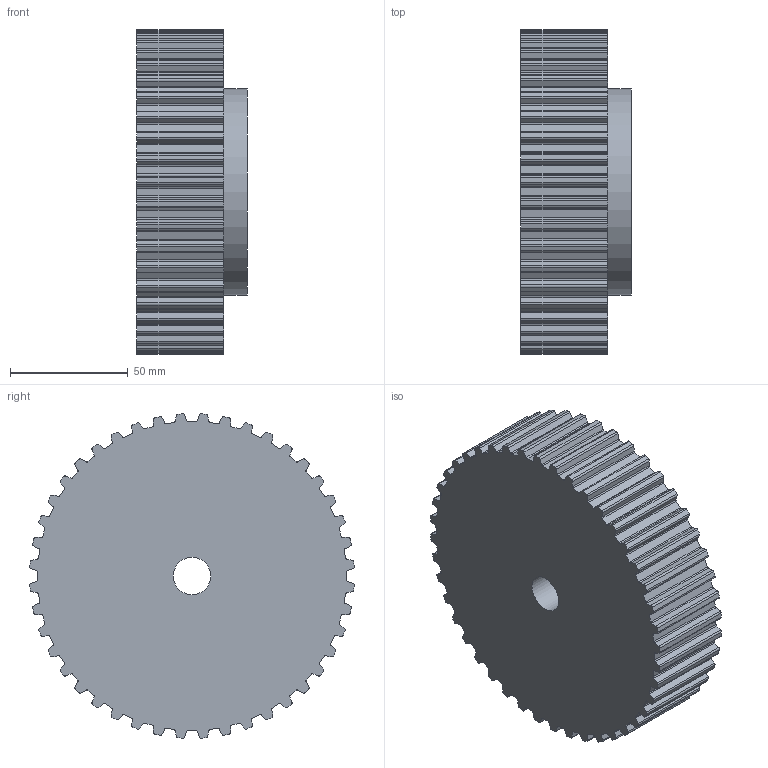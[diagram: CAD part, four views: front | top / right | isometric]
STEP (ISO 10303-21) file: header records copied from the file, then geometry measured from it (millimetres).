
FILE_DESCRIPTION( ( 'STEP AP203' ), '1' );
FILE_NAME( 'C:/Users/Stangenbergd/Documents/CAD_Step/1/16444400.stp', '2020-09-13T08:47:44', ( 'License CC BY-ND 4.0' ), ( 'CADENAS' ), ' ', 'PARTsolutions', ' ' );
FILE_SCHEMA( ( 'CONFIG_CONTROL_DESIGN' ) );
Length unit declared in the file: millimetre
Products named in the file (1): _16444400
Bounding box: 47 x 137.98 x 137.98 mm (x, y, z)
Volume: 576730.7 mm3; surface area: 55871.9 mm2
Topology: 1 solids, 1 shells, 357 faces, 1062 edges, 708 vertices
Faces by surface type: cylinder 222, plane 135
Full cylindrical faces by diameter (mm): 16 x1, 88 x1
Entity records: 12198 total; most frequent: DIRECTION 2220, CARTESIAN_POINT 2126, ORIENTED_EDGE 2120, EDGE_CURVE 1060, AXIS2_PLACEMENT_3D 802, VERTEX_POINT 708, LINE 616, VECTOR 616
